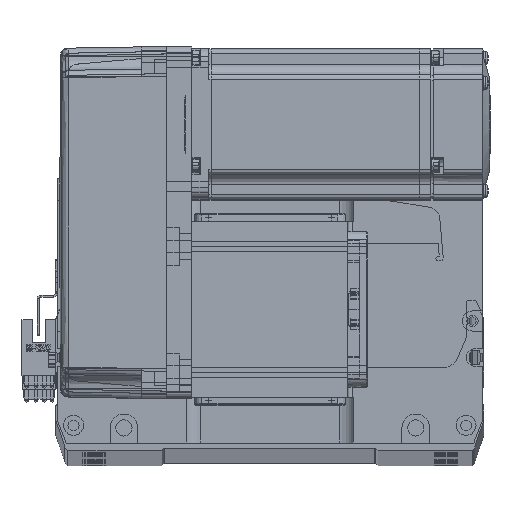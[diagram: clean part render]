
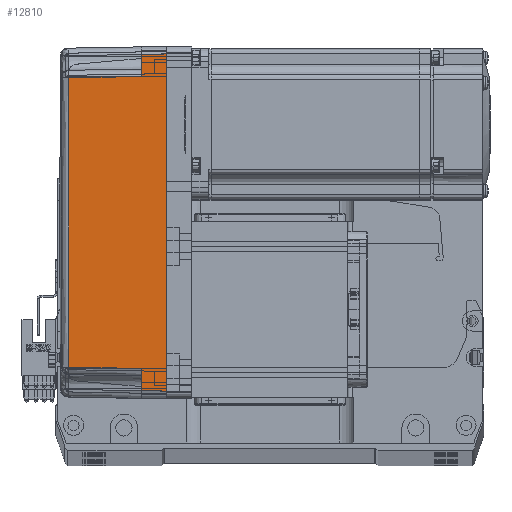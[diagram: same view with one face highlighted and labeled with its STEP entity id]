
A CAD part, top view. The second image highlights one B-rep face of the part: STEP entity #12810.
In plain terms, the highlighted planar face has unit normal (-0.018, 0, 1) as drawn and (0, 1, 0.017) by its records, which use the part's own axes.
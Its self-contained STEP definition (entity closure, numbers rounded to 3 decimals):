
#99 = ORIENTED_EDGE ( 'NONE', *, *, #41940, .T. ) ;
#1010 = VECTOR ( 'NONE', #30312, 1000. ) ;
#1507 = DIRECTION ( 'NONE',  ( 1., 0., 0. ) ) ;
#1509 = CARTESIAN_POINT ( 'NONE',  ( 70., 35.825, 10. ) ) ;
#2001 = DIRECTION ( 'NONE',  ( 1., 0., 0. ) ) ;
#4744 = LINE ( 'NONE', #1509, #20614 ) ;
#5047 = CARTESIAN_POINT ( 'NONE',  ( -67., 36., 0. ) ) ;
#5425 = CARTESIAN_POINT ( 'NONE',  ( -66.826, 35.825, 10. ) ) ;
#6532 = DIRECTION ( 'NONE',  ( 0.017, 0.017, -1. ) ) ;
#7810 = CARTESIAN_POINT ( 'NONE',  ( 0., 36., 0. ) ) ;
#8221 = ORIENTED_EDGE ( 'NONE', *, *, #31980, .T. ) ;
#8814 = DIRECTION ( 'NONE',  ( 0., -0.017, 1. ) ) ;
#12810 = ADVANCED_FACE ( 'NONE', ( #63219 ), #26160, .T. ) ;
#13014 = DIRECTION ( 'NONE',  ( 1., 0., 0. ) ) ;
#15387 = CARTESIAN_POINT ( 'NONE',  ( -57.495, 35.32, 38.985 ) ) ;
#17114 = VERTEX_POINT ( 'NONE', #15387 ) ;
#20380 = ORIENTED_EDGE ( 'NONE', *, *, #64536, .F. ) ;
#20614 = VECTOR ( 'NONE', #13014, 1000. ) ;
#20875 = ORIENTED_EDGE ( 'NONE', *, *, #34968, .T. ) ;
#22134 = VERTEX_POINT ( 'NONE', #68359 ) ;
#25360 = ORIENTED_EDGE ( 'NONE', *, *, #33838, .T. ) ;
#25484 = VERTEX_POINT ( 'NONE', #71966 ) ;
#26160 = PLANE ( 'NONE',  #27047 ) ;
#27047 = AXIS2_PLACEMENT_3D ( 'NONE', #69924, #30556, #8814 ) ;
#27217 = CARTESIAN_POINT ( 'NONE',  ( 57.495, 35.32, 38.985 ) ) ;
#28224 = CARTESIAN_POINT ( 'NONE',  ( 67., 36., 0. ) ) ;
#28370 = VECTOR ( 'NONE', #44174, 1000. ) ;
#29668 = LINE ( 'NONE', #63864, #30579 ) ;
#30312 = DIRECTION ( 'NONE',  ( -0.017, -0.017, 1. ) ) ;
#30364 = VERTEX_POINT ( 'NONE', #67849 ) ;
#30556 = DIRECTION ( 'NONE',  ( 0., 1., 0.017 ) ) ;
#30579 = VECTOR ( 'NONE', #35935, 1000. ) ;
#30735 = LINE ( 'NONE', #30784, #1010 ) ;
#30784 = CARTESIAN_POINT ( 'NONE',  ( 67.001, 36.001, -0.052 ) ) ;
#31980 = EDGE_CURVE ( 'NONE', #30364, #17114, #29668, .T. ) ;
#33052 = CARTESIAN_POINT ( 'NONE',  ( -57.495, 35.32, 38.985 ) ) ;
#33838 = EDGE_CURVE ( 'NONE', #22134, #69229, #37283, .T. ) ;
#34553 = VERTEX_POINT ( 'NONE', #5425 ) ;
#34968 = EDGE_CURVE ( 'NONE', #54677, #34553, #64284, .T. ) ;
#35935 = DIRECTION ( 'NONE',  ( 0.017, -0.017, 1. ) ) ;
#37283 = LINE ( 'NONE', #40507, #53948 ) ;
#37993 = CARTESIAN_POINT ( 'NONE',  ( 19.165, 35.316, 39.181 ) ) ;
#38186 = ORIENTED_EDGE ( 'NONE', *, *, #71059, .F. ) ;
#38788 = ORIENTED_EDGE ( 'NONE', *, *, #58886, .T. ) ;
#39232 = LINE ( 'NONE', #7810, #45355 ) ;
#40143 = ORIENTED_EDGE ( 'NONE', *, *, #46280, .T. ) ;
#40507 = CARTESIAN_POINT ( 'NONE',  ( 57.495, 35.32, 38.985 ) ) ;
#41940 = EDGE_CURVE ( 'NONE', #17114, #22134, #70446, .T. ) ;
#43310 = LINE ( 'NONE', #68979, #56470 ) ;
#44174 = DIRECTION ( 'NONE',  ( 0.017, -0.017, 1. ) ) ;
#45311 = CARTESIAN_POINT ( 'NONE',  ( 58., 35.825, 10. ) ) ;
#45355 = VECTOR ( 'NONE', #1507, 1000. ) ;
#46280 = EDGE_CURVE ( 'NONE', #34553, #30364, #43310, .T. ) ;
#53948 = VECTOR ( 'NONE', #6532, 1000. ) ;
#54389 = VERTEX_POINT ( 'NONE', #28224 ) ;
#54677 = VERTEX_POINT ( 'NONE', #67090 ) ;
#56205 = EDGE_LOOP ( 'NONE', ( #20875, #40143, #8221, #99, #25360, #38788, #38186, #20380 ) ) ;
#56470 = VECTOR ( 'NONE', #2001, 1000. ) ;
#58886 = EDGE_CURVE ( 'NONE', #69229, #25484, #4744, .T. ) ;
#63219 = FACE_OUTER_BOUND ( 'NONE', #56205, .T. ) ;
#63864 = CARTESIAN_POINT ( 'NONE',  ( -58., 35.825, 10. ) ) ;
#64284 = LINE ( 'NONE', #5047, #28370 ) ;
#64536 = EDGE_CURVE ( 'NONE', #54677, #54389, #39232, .T. ) ;
#67090 = CARTESIAN_POINT ( 'NONE',  ( -67., 36., 0. ) ) ;
#67849 = CARTESIAN_POINT ( 'NONE',  ( -58., 35.825, 10. ) ) ;
#68359 = CARTESIAN_POINT ( 'NONE',  ( 57.495, 35.32, 38.985 ) ) ;
#68979 = CARTESIAN_POINT ( 'NONE',  ( 70., 35.825, 10. ) ) ;
#69229 = VERTEX_POINT ( 'NONE', #45311 ) ;
#69924 = CARTESIAN_POINT ( 'NONE',  ( 70., 36., 0. ) ) ;
#70446 = B_SPLINE_CURVE_WITH_KNOTS ( 'NONE', 3,
 ( #33052, #72225, #37993, #27217 ),
 .UNSPECIFIED., .F., .F.,
 ( 4, 4 ),
 ( 0., 1. ),
 .UNSPECIFIED. ) ;
#71059 = EDGE_CURVE ( 'NONE', #54389, #25484, #30735, .T. ) ;
#71966 = CARTESIAN_POINT ( 'NONE',  ( 66.826, 35.825, 10. ) ) ;
#72225 = CARTESIAN_POINT ( 'NONE',  ( -19.165, 35.316, 39.181 ) ) ;
